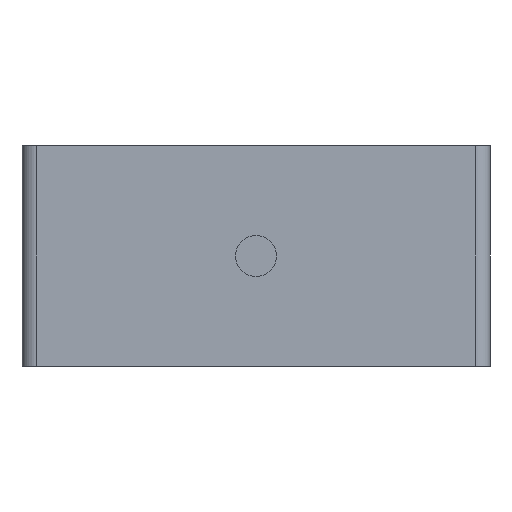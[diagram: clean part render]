
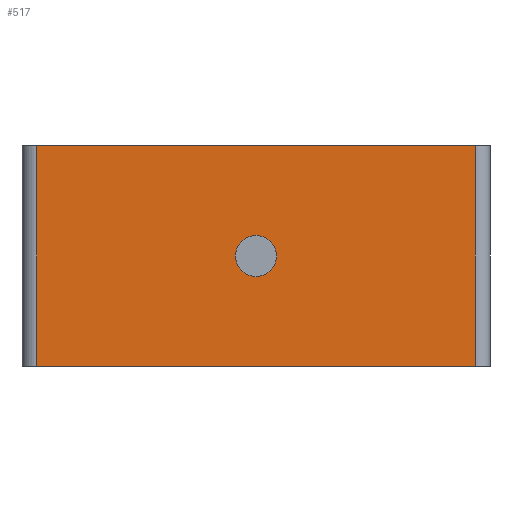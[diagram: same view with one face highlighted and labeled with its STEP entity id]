
A CAD part, left-side view. The second image highlights one B-rep face of the part: STEP entity #517.
In plain terms, the highlighted planar face has unit normal (-1, 0, 0).
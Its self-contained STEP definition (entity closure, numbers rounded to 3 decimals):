
#19=FACE_BOUND('',#103,.T.);
#42=PLANE('',#569);
#70=FACE_OUTER_BOUND('',#102,.T.);
#102=EDGE_LOOP('',(#480,#481,#482,#483));
#103=EDGE_LOOP('',(#484));
#104=LINE('',#713,#163);
#109=LINE('',#725,#168);
#124=LINE('',#757,#183);
#162=LINE('',#849,#221);
#163=VECTOR('',#576,10.);
#168=VECTOR('',#587,10.);
#183=VECTOR('',#606,10.);
#221=VECTOR('',#704,10.);
#226=CIRCLE('',#542,4.15);
#233=VERTEX_POINT('',#710);
#234=VERTEX_POINT('',#712);
#238=VERTEX_POINT('',#724);
#253=VERTEX_POINT('',#756);
#256=VERTEX_POINT('',#766);
#279=EDGE_CURVE('',#233,#234,#104,.T.);
#285=EDGE_CURVE('',#238,#234,#109,.T.);
#301=EDGE_CURVE('',#238,#253,#124,.T.);
#306=EDGE_CURVE('',#256,#256,#226,.T.);
#346=EDGE_CURVE('',#233,#253,#162,.T.);
#480=ORIENTED_EDGE('',*,*,#279,.F.);
#481=ORIENTED_EDGE('',*,*,#346,.T.);
#482=ORIENTED_EDGE('',*,*,#301,.F.);
#483=ORIENTED_EDGE('',*,*,#285,.T.);
#484=ORIENTED_EDGE('',*,*,#306,.T.);
#517=ADVANCED_FACE('',(#70,#19),#42,.F.);
#542=AXIS2_PLACEMENT_3D('',#767,#616,#617);
#569=AXIS2_PLACEMENT_3D('',#850,#705,#706);
#576=DIRECTION('',(0.,0.,1.));
#587=DIRECTION('',(0.,1.,0.));
#606=DIRECTION('',(0.,0.,-1.));
#616=DIRECTION('center_axis',(1.,0.,0.));
#617=DIRECTION('ref_axis',(0.,-1.,0.));
#704=DIRECTION('',(0.,-1.,0.));
#705=DIRECTION('center_axis',(1.,0.,0.));
#706=DIRECTION('ref_axis',(0.,1.,0.));
#710=CARTESIAN_POINT('',(4.,44.25,-22.25));
#712=CARTESIAN_POINT('',(4.,44.25,22.25));
#713=CARTESIAN_POINT('',(4.,44.25,-11.125));
#724=CARTESIAN_POINT('',(4.,-44.25,22.25));
#725=CARTESIAN_POINT('',(4.,-47.25,22.25));
#756=CARTESIAN_POINT('',(4.,-44.25,-22.25));
#757=CARTESIAN_POINT('',(4.,-44.25,11.125));
#766=CARTESIAN_POINT('',(4.,4.15,0.));
#767=CARTESIAN_POINT('Origin',(4.,0.,0.));
#849=CARTESIAN_POINT('',(4.,47.25,-22.25));
#850=CARTESIAN_POINT('Origin',(4.,0.,0.));
